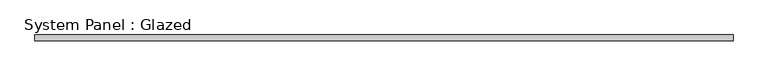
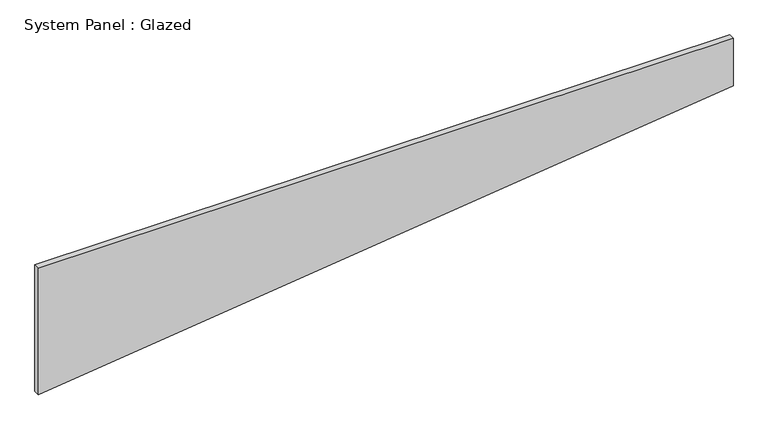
"""IFC4 building model written with IfcOpenShell, lengths in millimetres: plate geometry, System Panel : Glazed."""

from ifc_helpers import new_model, si_unit, frame, origin, place, context, project, spatial, polyline, outline, extrude, source, transform, mapped, element, save


def system_panel_glazed_9bbf47e9(model_context):
    return source(origin(), model_context, "Body", "SweptSolid", [
        extrude(outline(polyline([(0.0, -1504.95), (362.317622, 1504.95), (578.8343173, 1504.95), (578.8343173, -1504.95), (0.0, -1504.95)])), frame((0.0, 19.05, 0.0), z_axis=(0.0, 1.0, 0.0), x_axis=(0.0, 0.0, 1.0)), (0.0, 0.0, 1.0), 25.4),
    ])


if __name__ == "__main__":
    model = new_model("IFC4")
    model_context = context("Model", 3, world=origin())
    ifc_project = project(units=[si_unit("LENGTHUNIT", "METRE", prefix="MILLI")], contexts=[model_context])
    site = spatial("IfcSite", under=ifc_project)
    building = spatial("IfcBuilding", under=site)
    placement = place(None, origin())
    system_panel_glazed_shape = system_panel_glazed_9bbf47e9(model_context)
    element("IfcPlate", 1, ObjectType="System Panel : Glazed", at=placement, inside=building, context=model_context, shape_type="MappedRepresentation", body=[
        mapped(system_panel_glazed_shape, transform((0.0, 0.0, 0.0), x_axis=(1.0, 0.0, 0.0), y_axis=(0.0, 1.0, 0.0), z_axis=(0.0, 0.0, 1.0))),
    ])
    save(model, "model.ifc")
